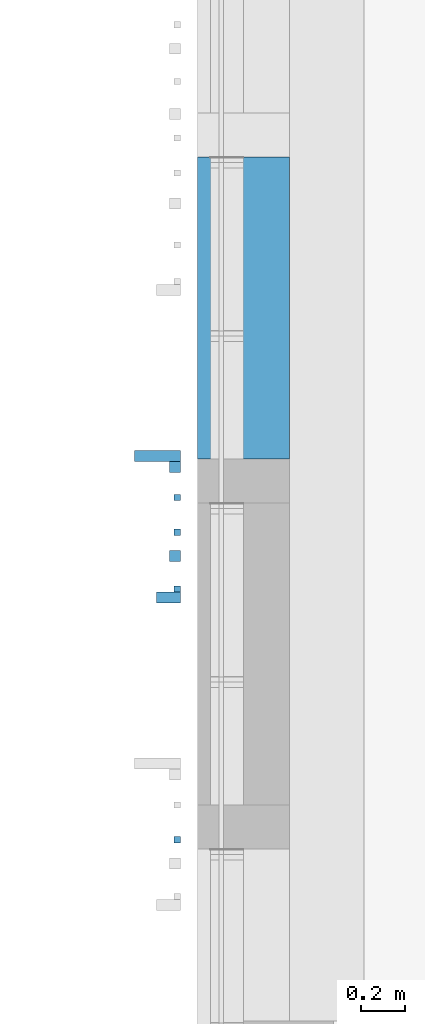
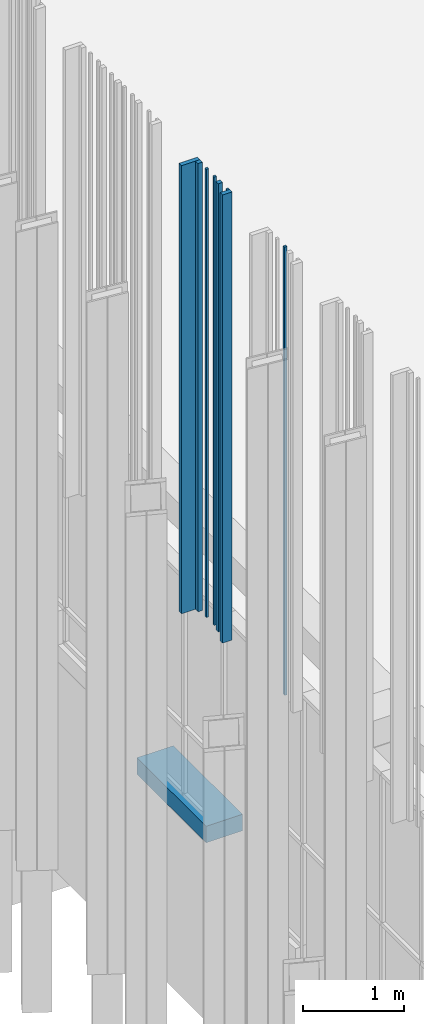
# One storey, part 111 of 390: 9 walls.
"""IFC2X3 building model written with IfcOpenShell, lengths in millimetres."""

from ifc_helpers import new_model, entity, si_unit, converted_unit, derived_unit, money_unit, direction, frame, origin_with_axes, place, context, subcontext, project, spatial, faceted_brep, material, material_list, type_object, element, save


model = new_model("IFC2X3")

# Units and contexts
model_context = context("Model", 3, precision=1e-05, world=origin_with_axes(), true_north=direction((0.0, 1.0)))
body_context = subcontext(model_context, "Body", "Model", "MODEL_VIEW")
ifc_project = project(units=[si_unit("LENGTHUNIT", "METRE", prefix="MILLI"), si_unit("AREAUNIT", "SQUARE_METRE"), si_unit("VOLUMEUNIT", "CUBIC_METRE"), converted_unit("PLANEANGLEUNIT", "DEGREE", entity("IfcPlaneAngleMeasure", 0.0174532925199), si_unit("PLANEANGLEUNIT", "RADIAN"), dimensions=[0, 0, 0, 0, 0, 0, 0]), si_unit("SOLIDANGLEUNIT", "STERADIAN"), money_unit("EUR"), converted_unit("TIMEUNIT", "Year", entity("IfcTimeMeasure", 31556926.0), si_unit("TIMEUNIT", "SECOND"), dimensions=[0, 0, 1, 0, 0, 0, 0]), si_unit("MASSUNIT", "GRAM", prefix="KILO"), si_unit("THERMODYNAMICTEMPERATUREUNIT", "DEGREE_CELSIUS"), si_unit("LUMINOUSINTENSITYUNIT", "LUMEN"), si_unit("ENERGYUNIT", "JOULE", prefix="MEGA"), derived_unit("THERMALCONDUCTANCEUNIT", [(si_unit("POWERUNIT", "WATT"), 1), (si_unit("LENGTHUNIT", "METRE"), -1), (si_unit("THERMODYNAMICTEMPERATUREUNIT", "KELVIN"), -1)]), derived_unit("SPECIFICHEATCAPACITYUNIT", [(si_unit("ENERGYUNIT", "JOULE"), 1), (si_unit("MASSUNIT", "GRAM", prefix="KILO"), -1), (si_unit("THERMODYNAMICTEMPERATUREUNIT", "KELVIN"), -1)]), derived_unit("MASSDENSITYUNIT", [(si_unit("MASSUNIT", "GRAM", prefix="KILO"), 1), (si_unit("VOLUMEUNIT", "CUBIC_METRE"), -1)])], contexts=[model_context])

# Site, building, storey
site_placement = place(None, origin_with_axes())
site = spatial("IfcSite", under=ifc_project, at=site_placement, Name="Site", CompositionType="ELEMENT")
building_placement = place(site_placement, origin_with_axes())
building = spatial("IfcBuilding", under=site, at=building_placement, Name="Building", CompositionType="ELEMENT")
storey_placement = place(building_placement, origin_with_axes())
storey = spatial("IfcBuildingStorey", under=building, at=storey_placement, Name="1 korrus", CompositionType="ELEMENT", Elevation=0.0)

# Walls
ifc_material_1 = material(Name="Site specified")
wall_type_1 = type_object("IfcWallType", Name="Puitfassaadi ribistik", PredefinedType="NOTDEFINED")
wall_1_placement = place(storey_placement, frame((122398.999997, 53205.0000095, 4424.99966101), z_axis=(0.0, 0.0, 1.0), x_axis=(0.0, 1.0, 0.0)))
element("IfcWall", 1, at=wall_1_placement, inside=storey, type_object=wall_type_1, material=ifc_material_1, Name="Site specified", context=body_context, shape_type="Brep", body=[
    faceted_brep([(14.0, 14.0, 5440.00033899), (14.0, 14.0, 0.0), (-14.0, 14.0, 0.0), (-14.0, 14.0, 5440.00033899), (14.0, -14.0, 5440.00033899), (14.0, -14.0, 0.0), (-14.0, -14.0, 0.0), (-14.0, -14.0, 5440.00033899)], [[[0, 1, 2, 3]], [[4, 5, 1, 0]], [[2, 1, 5, 6]], [[3, 2, 6, 7]], [[4, 0, 3, 7]], [[7, 6, 5, 4]]]),
])
wall_2_placement = place(storey_placement, frame((122387.999997, 54902.0000095, 4424.99966101), z_axis=(0.0, 0.0, 1.0), x_axis=(0.0, 1.0, 0.0)))
element("IfcWall", 2, at=wall_2_placement, inside=storey, type_object=wall_type_1, material=ifc_material_1, Name="Site specified", context=body_context, shape_type="Brep", body=[
    faceted_brep([(25.0, 25.0, 5440.00033899), (25.0, 25.0, 0.0), (-25.0, 25.0, 0.0), (-25.0, 25.0, 5440.00033899), (25.0, -25.0, 5440.00033899), (25.0, -25.0, 0.0), (-25.0, -25.0, 0.0), (-25.0, -25.0, 5440.00033899)], [[[0, 1, 2, 3]], [[4, 5, 1, 0]], [[2, 1, 5, 6]], [[3, 2, 6, 7]], [[4, 0, 3, 7]], [[7, 6, 5, 4]]]),
])
for number, where, z_axis, x_axis, name in (
    (3, (122398.999997, 54605.0000095, 4424.99966101), (0.0, 0.0, 1.0), (0.0, 1.0, 0.0), "Site specified"),
    (4, (122398.999997, 54347.0000095, 4424.99966101), (0.0, 0.0, 1.0), (0.0, 1.0, 0.0), "Site specified"),
):
    element("IfcWall", number, at=place(storey_placement, frame(where, z_axis=z_axis, x_axis=x_axis)), inside=storey, type_object=wall_type_1, material=ifc_material_1, Name=name, context=body_context, shape_type="Brep", body=[
        faceted_brep([(14.0, 14.0, 5440.00033899), (14.0, 14.0, 0.0), (-14.0, 14.0, 0.0), (-14.0, 14.0, 5440.00033899), (14.0, -14.0, 5440.00033899), (14.0, -14.0, 0.0), (-14.0, -14.0, 0.0), (-14.0, -14.0, 5440.00033899)], [[[0, 1, 2, 3]], [[4, 5, 1, 0]], [[2, 1, 5, 6]], [[3, 2, 6, 7]], [[4, 0, 3, 7]], [[7, 6, 5, 4]]]),
    ])
wall_3_placement = place(storey_placement, frame((122358.499997, 54308.0000095, 4424.99966101), z_axis=(0.0, 0.0, 1.0), x_axis=(0.0, 1.0, 0.0)))
element("IfcWall", 5, at=wall_3_placement, inside=storey, type_object=wall_type_1, material=ifc_material_1, Name="Site specified", context=body_context, shape_type="Brep", body=[
    faceted_brep([(25.0, 54.5, 5440.00033899), (25.0, 54.5, 0.0), (-25.0, 54.5, 0.0), (-25.0, 54.5, 5440.00033899), (25.0, -54.5, 5440.00033899), (25.0, -54.5, 0.0), (-25.0, -54.5, 0.0), (-25.0, -54.5, 5440.00033899)], [[[0, 1, 2, 3]], [[4, 5, 1, 0]], [[2, 1, 5, 6]], [[3, 2, 6, 7]], [[4, 0, 3, 7]], [[7, 6, 5, 4]]]),
])
wall_4_placement = place(storey_placement, frame((122308.499997, 54952.0000095, 4424.99966101), z_axis=(0.0, 0.0, 1.0), x_axis=(0.0, 1.0, 0.0)))
element("IfcWall", 6, at=wall_4_placement, inside=storey, type_object=wall_type_1, material=ifc_material_1, Name="Site specified", context=body_context, shape_type="Brep", body=[
    faceted_brep([(25.0, 104.5, 5440.00033899), (25.0, 104.5, 0.0), (-25.0, 104.5, 0.0), (-25.0, 104.5, 5440.00033899), (25.0, -104.5, 5440.00033899), (25.0, -104.5, 0.0), (-25.0, -104.5, 0.0), (-25.0, -104.5, 5440.00033899)], [[[0, 1, 2, 3]], [[4, 5, 1, 0]], [[2, 1, 5, 6]], [[3, 2, 6, 7]], [[4, 0, 3, 7]], [[7, 6, 5, 4]]]),
])
wall_5_placement = place(storey_placement, frame((122387.999997, 54496.0000095, 4424.99966101), z_axis=(0.0, 0.0, 1.0), x_axis=(0.0, 1.0, 0.0)))
element("IfcWall", 7, at=wall_5_placement, inside=storey, type_object=wall_type_1, material=ifc_material_1, Name="Site specified", context=body_context, shape_type="Brep", body=[
    faceted_brep([(25.0, 25.0, 5440.00033899), (25.0, 25.0, 0.0), (-25.0, 25.0, 0.0), (-25.0, 25.0, 5440.00033899), (25.0, -25.0, 5440.00033899), (25.0, -25.0, 0.0), (-25.0, -25.0, 0.0), (-25.0, -25.0, 5440.00033899)], [[[0, 1, 2, 3]], [[4, 5, 1, 0]], [[2, 1, 5, 6]], [[3, 2, 6, 7]], [[4, 0, 3, 7]], [[7, 6, 5, 4]]]),
])
wall_6_placement = place(storey_placement, frame((122398.999997, 54763.0000095, 4424.99966101), z_axis=(0.0, 0.0, 1.0), x_axis=(0.0, 1.0, 0.0)))
element("IfcWall", 8, at=wall_6_placement, inside=storey, type_object=wall_type_1, material=ifc_material_1, Name="Site specified", context=body_context, shape_type="Brep", body=[
    faceted_brep([(14.0, 14.0, 5440.00033899), (14.0, 14.0, 0.0), (-14.0, 14.0, 0.0), (-14.0, 14.0, 5440.00033899), (14.0, -14.0, 5440.00033899), (14.0, -14.0, 0.0), (-14.0, -14.0, 0.0), (-14.0, -14.0, 5440.00033899)], [[[0, 1, 2, 3]], [[4, 5, 1, 0]], [[2, 1, 5, 6]], [[3, 2, 6, 7]], [[4, 0, 3, 7]], [[7, 6, 5, 4]]]),
])
ifc_material_2 = material(Name="Plaat - Sein")
ifc_material_3 = material(Name="Soojustus - Plastik Kõva")
ifc_material_4 = material(Name="Raudbetoon - Konstruktsioon")
ifc_material_5 = material(Name="Krohv - Lubjakivi")
ifc_material_list = material_list([ifc_material_2, ifc_material_3, ifc_material_3, ifc_material_4, ifc_material_5])
wall_type_2 = type_object("IfcWallType", Name="VS-05", PredefinedType="NOTDEFINED")
wall_7_placement = place(storey_placement, frame((122909.999995, 54937.5685601, 1540.0), z_axis=(0.0, 0.0, 1.0), x_axis=(0.0, 1.0, 0.0)))
element("IfcWall", 9, at=wall_7_placement, inside=storey, type_object=wall_type_2, material=ifc_material_list, Name="VS-05", context=body_context, shape_type="Brep", body=[
    faceted_brep([(1374.99999999, 418.000000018, 0.0), (1374.99999999, 410.000000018, 0.0), (-5.49249534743e-09, 410.0, 0.0), (-5.59907675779e-09, 418.0, 0.0), (1374.99999999, 418.000000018, 200.0), (1374.99999999, 410.000000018, 200.0), (-5.49249534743e-09, 410.0, 200.0), (-5.59907675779e-09, 418.0, 200.0)], [[[0, 1, 2, 3]], [[0, 4, 5, 1]], [[1, 5, 6, 2]], [[3, 2, 6, 7]], [[4, 0, 3, 7]], [[5, 4, 7, 6]]]),
    faceted_brep([(1374.99999999, 410.000000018, 0.0), (1375.0, 360.000000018, 0.0), (-4.82458517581e-09, 360.0, 0.0), (-5.49249534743e-09, 410.0, 0.0), (1374.99999999, 410.000000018, 200.0), (1375.0, 360.000000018, 200.0), (-4.82458517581e-09, 360.0, 200.0), (-5.49249534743e-09, 410.0, 200.0)], [[[0, 1, 2, 3]], [[0, 4, 5, 1]], [[1, 5, 6, 2]], [[3, 2, 6, 7]], [[4, 0, 3, 7]], [[5, 4, 7, 6]]]),
    faceted_brep([(1375.0, 360.000000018, 0.0), (1375.0, 210.000000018, 0.0), (-2.81374923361e-09, 210.0, 0.0), (-4.82458517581e-09, 360.0, 0.0), (1375.0, 360.000000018, 200.0), (1375.0, 210.000000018, 200.0), (-2.81374923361e-09, 210.0, 200.0), (-4.82458517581e-09, 360.0, 200.0)], [[[0, 1, 2, 3]], [[0, 4, 5, 1]], [[1, 5, 6, 2]], [[3, 2, 6, 7]], [[4, 0, 3, 7]], [[5, 4, 7, 6]]]),
    faceted_brep([(1375.0, 210.000000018, 0.0), (1375.0, 10.0000000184, 0.0), (-1.35003119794e-10, 10.0, 0.0), (-2.81374923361e-09, 210.0, 0.0), (1375.0, 210.000000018, 200.0), (1375.0, 10.0000000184, 200.0), (-1.35003119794e-10, 10.0, 200.0), (-2.81374923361e-09, 210.0, 200.0)], [[[0, 1, 2, 3]], [[0, 4, 5, 1]], [[1, 5, 6, 2]], [[3, 2, 6, 7]], [[4, 0, 3, 7]], [[5, 4, 7, 6]]]),
    faceted_brep([(1375.0, 10.0000000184, 0.0), (1375.0, 1.84314785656e-08, 0.0), (0.0, 0.0, 0.0), (-1.35003119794e-10, 10.0, 0.0), (1375.0, 10.0000000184, 200.0), (1375.0, 1.84314785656e-08, 200.0), (0.0, 0.0, 200.0), (-1.35003119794e-10, 10.0, 200.0)], [[[0, 1, 2, 3]], [[0, 4, 5, 1]], [[1, 5, 6, 2]], [[3, 2, 6, 7]], [[4, 0, 3, 7]], [[5, 4, 7, 6]]]),
])

save(model, "model.ifc")
